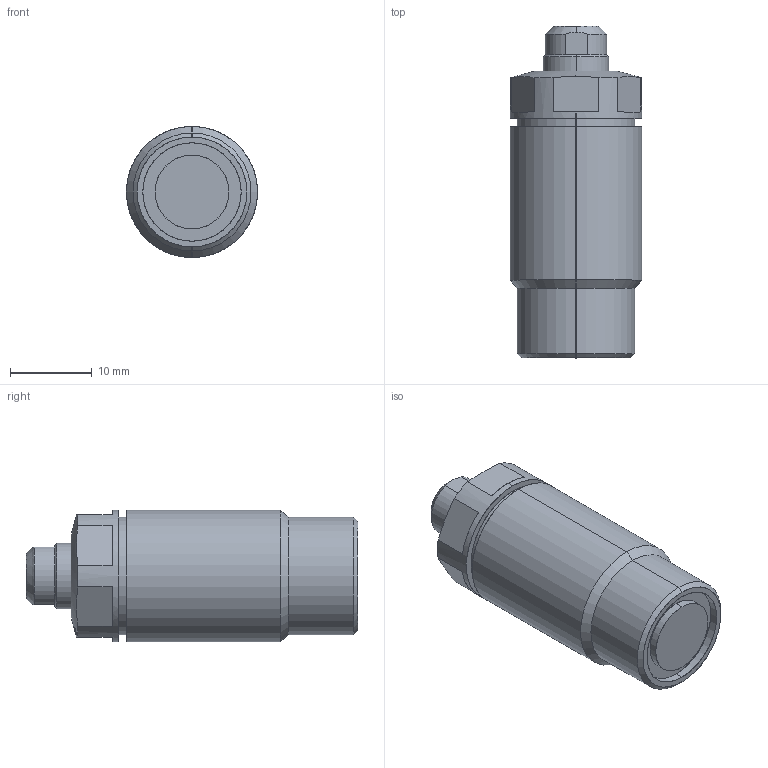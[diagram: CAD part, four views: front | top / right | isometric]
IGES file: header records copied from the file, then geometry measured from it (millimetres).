
Start section: SolidWorks IGES file using analytic representation for surfaces
Global section: file name: D:\karuppas\Clasp\3D model\Thread body cylinder\T03C-M160- S threaded pusher\T03C-M160 S threaded pusher.IGS; native system: SolidWorks 2017; preprocessor: SolidWorks 2017; author: pc; date: 220709.230447; units: millimetre
Bounding box: 16 x 40.5 x 16 mm (x, y, z)
Surface area: 3175 mm2 (no closed solid volume)
Topology: 0 solids, 0 shells, 233 faces, 2661 edges, 2659 vertices
Faces by surface type: bspline 200, revolution 33
